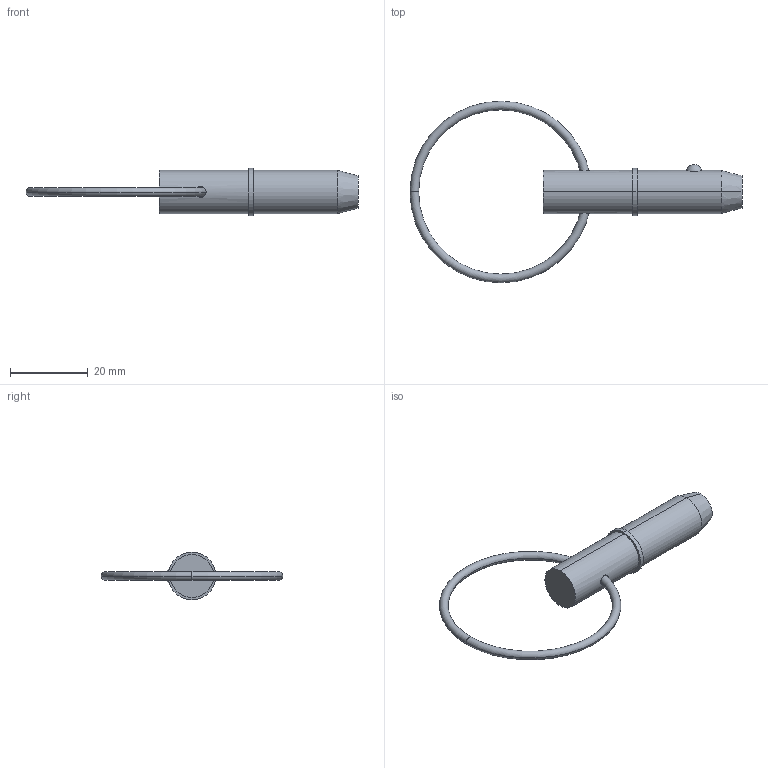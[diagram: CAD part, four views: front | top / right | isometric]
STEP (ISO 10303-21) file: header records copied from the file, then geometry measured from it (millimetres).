
FILE_DESCRIPTION (( 'STEP AP203' ), '1' );
FILE_NAME ('33014.W4305.step', '2024-11-04T08:27:49', ( '' ), ( '' ), 'SwSTEP 2.0', 'SolidWorks 2019', '' );
FILE_SCHEMA (( 'CONFIG_CONTROL_DESIGN' ));
Length unit declared in the file: millimetre
Products named in the file (3): 33014.W4305; Part2_33014.W4305; Part1_33014.W4305
Assembly tree (2 placements, depth 2):
  33014.W4305
    Part1_33014.W4305
    Part2_33014.W4305
Bounding box: 85.32 x 46.67 x 12.22 mm (x, y, z)
Volume: 5347.3 mm3; surface area: 3029.9 mm2
Topology: 2 solids, 2 shells, 22 faces, 43 edges, 26 vertices
Faces by surface type: torus 8, cylinder 6, plane 4, sphere 2, cone 2
Entity records: 1023 total; most frequent: CARTESIAN_POINT 246, DIRECTION 120, ORIENTED_EDGE 86, AXIS2_PLACEMENT_3D 56, EDGE_CURVE 43, CIRCLE 29, EDGE_LOOP 27, PERSON_AND_ORGANIZATION 26
